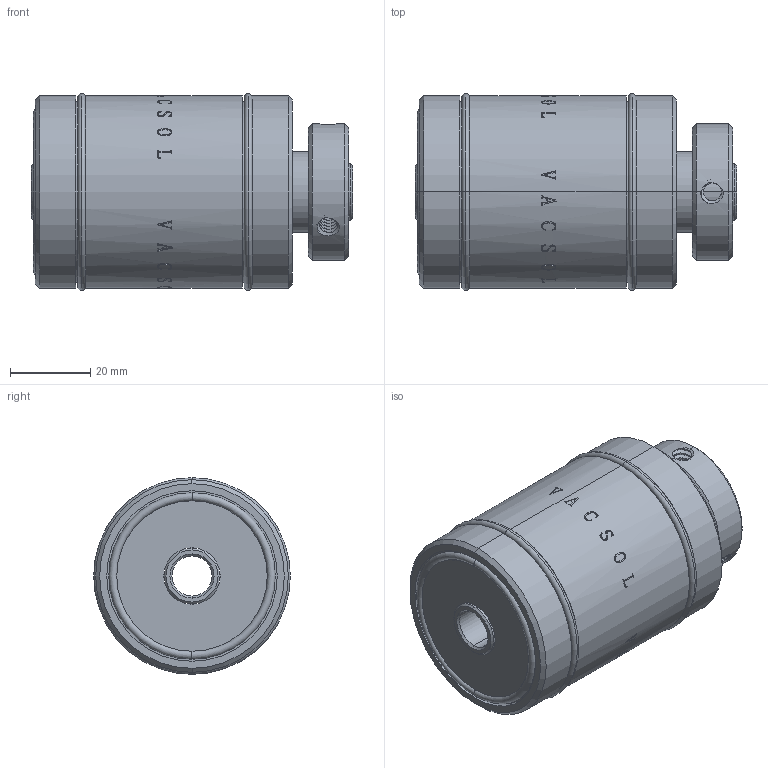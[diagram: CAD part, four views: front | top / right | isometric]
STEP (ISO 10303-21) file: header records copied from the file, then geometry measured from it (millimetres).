
FILE_DESCRIPTION (( 'STEP AP214' ), '1' );
FILE_NAME ('m10.STEP', '2010-08-26T11:56:35', ( 'user' ), ( '' ), 'SwSTEP 2.0', 'SolidWorks 2007', '' );
FILE_SCHEMA (( 'AUTOMOTIVE_DESIGN' ));
Length unit declared in the file: millimetre
Products named in the file (1): m10
Bounding box: 80 x 49 x 49 mm (x, y, z)
Volume: 118758.1 mm3; surface area: 29249.7 mm2
Topology: 5 solids, 5 shells, 448 faces, 1210 edges, 797 vertices
Faces by surface type: bspline 270, cylinder 92, plane 58, cone 16, torus 12
Entity records: 45111 total; most frequent: CARTESIAN_POINT 32732, ORIENTED_EDGE 2420, EDGE_CURVE 1210, B_SPLINE_CURVE_WITH_KNOTS 846, VERTEX_POINT 797, DIRECTION 778, EDGE_LOOP 489, ADVANCED_FACE 448
